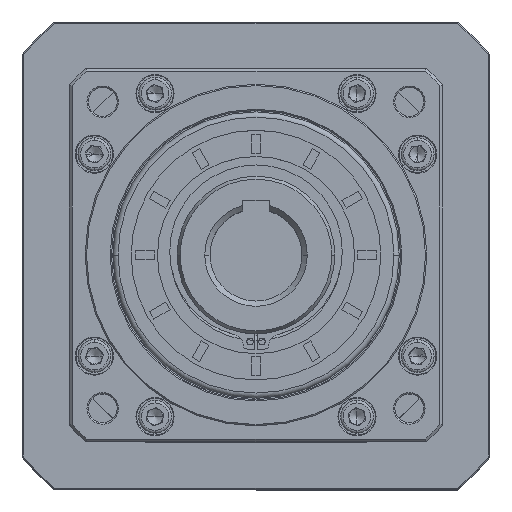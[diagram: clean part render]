
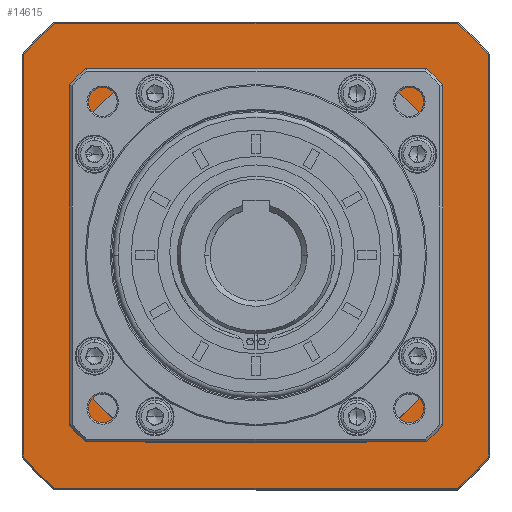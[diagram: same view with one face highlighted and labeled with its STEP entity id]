
A CAD part, top view. The second image highlights one B-rep face of the part: STEP entity #14615.
In plain terms, the highlighted planar face has unit normal (0, 0, 1).
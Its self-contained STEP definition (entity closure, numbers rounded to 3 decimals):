
#91 = CARTESIAN_POINT ( 'NONE',  ( 262.937, -248.278, 165.15 ) ) ;
#898 = AXIS2_PLACEMENT_3D ( 'NONE', #95079, #66835, #40701 ) ;
#3240 = CARTESIAN_POINT ( 'NONE',  ( 115.907, -117.763, 165.15 ) ) ;
#3465 = EDGE_CURVE ( 'NONE', #37110, #58578, #32002, .T. ) ;
#3984 = CIRCLE ( 'NONE', #9793, 117. ) ;
#4515 = EDGE_CURVE ( 'NONE', #74412, #87066, #66161, .T. ) ;
#4616 = EDGE_LOOP ( 'NONE', ( #67858, #55252, #12311, #27692, #33741, #61746, #5393, #14943 ) ) ;
#4711 = EDGE_CURVE ( 'NONE', #58578, #74412, #12692, .T. ) ;
#5393 = ORIENTED_EDGE ( 'NONE', *, *, #3465, .T. ) ;
#6819 = DIRECTION ( 'NONE',  ( -1., 0., 0. ) ) ;
#6979 = CARTESIAN_POINT ( 'NONE',  ( 186.407, -159.778, 165.15 ) ) ;
#9467 = CIRCLE ( 'NONE', #898, 117. ) ;
#9640 = EDGE_CURVE ( 'NONE', #52036, #95091, #34363, .T. ) ;
#9793 = AXIS2_PLACEMENT_3D ( 'NONE', #6979, #82008, #62255 ) ;
#10602 = DIRECTION ( 'NONE',  ( 0., -1., 0. ) ) ;
#11187 = VECTOR ( 'NONE', #6819, 1000. ) ;
#11721 = EDGE_CURVE ( 'NONE', #53651, #71092, #79537, .T. ) ;
#12311 = ORIENTED_EDGE ( 'NONE', *, *, #113771, .T. ) ;
#12488 = CARTESIAN_POINT ( 'NONE',  ( 256.907, -201.656, 165.15 ) ) ;
#12692 = LINE ( 'NONE', #3240, #47416 ) ;
#13835 = DIRECTION ( 'NONE',  ( 0., 0., -1. ) ) ;
#14615 = ADVANCED_FACE ( 'NONE', ( #59566, #48071 ), #72311, .F. ) ;
#14943 = ORIENTED_EDGE ( 'NONE', *, *, #4711, .T. ) ;
#15708 = CARTESIAN_POINT ( 'NONE',  ( 186.407, -71.278, 165.15 ) ) ;
#16229 = CARTESIAN_POINT ( 'NONE',  ( 144.53, -89.278, 165.15 ) ) ;
#16851 = CARTESIAN_POINT ( 'NONE',  ( 228.422, -89.278, 165.15 ) ) ;
#17565 = VERTEX_POINT ( 'NONE', #81045 ) ;
#19046 = CIRCLE ( 'NONE', #55985, 117. ) ;
#19169 = EDGE_LOOP ( 'NONE', ( #65465, #20775, #90164, #104196, #66467, #32832, #24504, #29638 ) ) ;
#19943 = CARTESIAN_POINT ( 'NONE',  ( 115.907, -117.9, 165.15 ) ) ;
#20264 = VECTOR ( 'NONE', #70873, 1000. ) ;
#20775 = ORIENTED_EDGE ( 'NONE', *, *, #115373, .T. ) ;
#20845 = CARTESIAN_POINT ( 'NONE',  ( 186.407, -159.778, 165.15 ) ) ;
#21655 = DIRECTION ( 'NONE',  ( -1., 0., 0. ) ) ;
#23106 = CARTESIAN_POINT ( 'NONE',  ( 228.285, -230.278, 165.15 ) ) ;
#23598 = EDGE_CURVE ( 'NONE', #104219, #96436, #93585, .T. ) ;
#23708 = CARTESIAN_POINT ( 'NONE',  ( 186.407, -248.278, 165.15 ) ) ;
#24128 = DIRECTION ( 'NONE',  ( -1., 0., 0. ) ) ;
#24504 = ORIENTED_EDGE ( 'NONE', *, *, #9640, .T. ) ;
#25999 = EDGE_CURVE ( 'NONE', #96436, #52036, #19046, .T. ) ;
#26904 = CARTESIAN_POINT ( 'NONE',  ( 274.907, -236.307, 165.15 ) ) ;
#27692 = ORIENTED_EDGE ( 'NONE', *, *, #11721, .T. ) ;
#27787 = EDGE_CURVE ( 'NONE', #71092, #76981, #76022, .T. ) ;
#28505 = CARTESIAN_POINT ( 'NONE',  ( 262.937, -71.278, 165.15 ) ) ;
#29024 = AXIS2_PLACEMENT_3D ( 'NONE', #49462, #13835, #78432 ) ;
#29638 = ORIENTED_EDGE ( 'NONE', *, *, #81963, .T. ) ;
#32002 = CIRCLE ( 'NONE', #110656, 82. ) ;
#32832 = ORIENTED_EDGE ( 'NONE', *, *, #25999, .T. ) ;
#33741 = ORIENTED_EDGE ( 'NONE', *, *, #27787, .T. ) ;
#34363 = LINE ( 'NONE', #15708, #11187 ) ;
#34481 = AXIS2_PLACEMENT_3D ( 'NONE', #102504, #65761, #75132 ) ;
#37110 = VERTEX_POINT ( 'NONE', #92746 ) ;
#37201 = VERTEX_POINT ( 'NONE', #85473 ) ;
#38153 = CIRCLE ( 'NONE', #29024, 82. ) ;
#40701 = DIRECTION ( 'NONE',  ( -1., 0., 0. ) ) ;
#44613 = VECTOR ( 'NONE', #111106, 1000. ) ;
#46146 = DIRECTION ( 'NONE',  ( -1., 0., 0. ) ) ;
#47416 = VECTOR ( 'NONE', #75521, 1000. ) ;
#47423 = CARTESIAN_POINT ( 'NONE',  ( 97.907, -159.778, 165.15 ) ) ;
#48071 = FACE_BOUND ( 'NONE', #4616, .T. ) ;
#48354 = CARTESIAN_POINT ( 'NONE',  ( 186.407, -159.778, 165.15 ) ) ;
#48709 = CARTESIAN_POINT ( 'NONE',  ( 186.407, -159.778, 165.15 ) ) ;
#49462 = CARTESIAN_POINT ( 'NONE',  ( 186.407, -159.778, 165.15 ) ) ;
#49563 = CARTESIAN_POINT ( 'NONE',  ( 256.907, -117.9, 165.15 ) ) ;
#51197 = DIRECTION ( 'NONE',  ( 0., 0., 1. ) ) ;
#52036 = VERTEX_POINT ( 'NONE', #28505 ) ;
#52498 = AXIS2_PLACEMENT_3D ( 'NONE', #20845, #105087, #85773 ) ;
#53651 = VERTEX_POINT ( 'NONE', #49563 ) ;
#54468 = LINE ( 'NONE', #23708, #55865 ) ;
#55252 = ORIENTED_EDGE ( 'NONE', *, *, #92173, .T. ) ;
#55865 = VECTOR ( 'NONE', #78187, 1000. ) ;
#55985 = AXIS2_PLACEMENT_3D ( 'NONE', #79382, #51197, #24128 ) ;
#56298 = CARTESIAN_POINT ( 'NONE',  ( 274.907, -159.778, 165.15 ) ) ;
#57239 = CARTESIAN_POINT ( 'NONE',  ( 228.285, -89.278, 165.15 ) ) ;
#58282 = AXIS2_PLACEMENT_3D ( 'NONE', #48709, #113095, #21655 ) ;
#58578 = VERTEX_POINT ( 'NONE', #74223 ) ;
#59566 = FACE_OUTER_BOUND ( 'NONE', #19169, .T. ) ;
#60203 = CIRCLE ( 'NONE', #58282, 117. ) ;
#61396 = AXIS2_PLACEMENT_3D ( 'NONE', #118949, #91244, #46146 ) ;
#61746 = ORIENTED_EDGE ( 'NONE', *, *, #111722, .T. ) ;
#62255 = DIRECTION ( 'NONE',  ( -1., 0., 0. ) ) ;
#65465 = ORIENTED_EDGE ( 'NONE', *, *, #118898, .T. ) ;
#65761 = DIRECTION ( 'NONE',  ( 0., 0., -1. ) ) ;
#66161 = CIRCLE ( 'NONE', #34481, 82. ) ;
#66467 = ORIENTED_EDGE ( 'NONE', *, *, #23598, .T. ) ;
#66835 = DIRECTION ( 'NONE',  ( 0., 0., 1. ) ) ;
#67858 = ORIENTED_EDGE ( 'NONE', *, *, #4515, .T. ) ;
#70873 = DIRECTION ( 'NONE',  ( -1., 0., 0. ) ) ;
#71092 = VERTEX_POINT ( 'NONE', #12488 ) ;
#72132 = DIRECTION ( 'NONE',  ( 1., 0., 0. ) ) ;
#72311 = PLANE ( 'NONE',  #61396 ) ;
#74223 = CARTESIAN_POINT ( 'NONE',  ( 115.907, -201.656, 165.15 ) ) ;
#74412 = VERTEX_POINT ( 'NONE', #19943 ) ;
#74832 = VECTOR ( 'NONE', #72132, 1000. ) ;
#75132 = DIRECTION ( 'NONE',  ( 1., 0., 0. ) ) ;
#75521 = DIRECTION ( 'NONE',  ( 0., 1., 0. ) ) ;
#75718 = VERTEX_POINT ( 'NONE', #57239 ) ;
#76022 = CIRCLE ( 'NONE', #52498, 82. ) ;
#76981 = VERTEX_POINT ( 'NONE', #23106 ) ;
#78079 = CARTESIAN_POINT ( 'NONE',  ( 109.878, -71.278, 165.15 ) ) ;
#78187 = DIRECTION ( 'NONE',  ( 1., 0., 0. ) ) ;
#78432 = DIRECTION ( 'NONE',  ( 1., 0., 0. ) ) ;
#78946 = VERTEX_POINT ( 'NONE', #91 ) ;
#79382 = CARTESIAN_POINT ( 'NONE',  ( 186.407, -159.778, 165.15 ) ) ;
#79537 = LINE ( 'NONE', #87131, #89594 ) ;
#80275 = VECTOR ( 'NONE', #10602, 1000. ) ;
#81045 = CARTESIAN_POINT ( 'NONE',  ( 109.878, -248.278, 165.15 ) ) ;
#81963 = EDGE_CURVE ( 'NONE', #95091, #37201, #9467, .T. ) ;
#82008 = DIRECTION ( 'NONE',  ( 0., 0., 1. ) ) ;
#82278 = VERTEX_POINT ( 'NONE', #99055 ) ;
#83739 = EDGE_CURVE ( 'NONE', #17565, #78946, #54468, .T. ) ;
#83815 = DIRECTION ( 'NONE',  ( 1., 0., 0. ) ) ;
#85473 = CARTESIAN_POINT ( 'NONE',  ( 97.907, -83.248, 165.15 ) ) ;
#85773 = DIRECTION ( 'NONE',  ( 1., 0., 0. ) ) ;
#87066 = VERTEX_POINT ( 'NONE', #16229 ) ;
#87131 = CARTESIAN_POINT ( 'NONE',  ( 256.907, -201.793, 165.15 ) ) ;
#88988 = CARTESIAN_POINT ( 'NONE',  ( 144.392, -230.278, 165.15 ) ) ;
#89594 = VECTOR ( 'NONE', #104885, 1000. ) ;
#90164 = ORIENTED_EDGE ( 'NONE', *, *, #83739, .T. ) ;
#91244 = DIRECTION ( 'NONE',  ( 0., 0., -1. ) ) ;
#92173 = EDGE_CURVE ( 'NONE', #87066, #75718, #97829, .T. ) ;
#92386 = EDGE_CURVE ( 'NONE', #78946, #104219, #60203, .T. ) ;
#92746 = CARTESIAN_POINT ( 'NONE',  ( 144.53, -230.278, 165.15 ) ) ;
#93585 = LINE ( 'NONE', #56298, #44613 ) ;
#95079 = CARTESIAN_POINT ( 'NONE',  ( 186.407, -159.778, 165.15 ) ) ;
#95091 = VERTEX_POINT ( 'NONE', #78079 ) ;
#96436 = VERTEX_POINT ( 'NONE', #99444 ) ;
#97829 = LINE ( 'NONE', #16851, #74832 ) ;
#99055 = CARTESIAN_POINT ( 'NONE',  ( 97.907, -236.307, 165.15 ) ) ;
#99444 = CARTESIAN_POINT ( 'NONE',  ( 274.907, -83.248, 165.15 ) ) ;
#102327 = DIRECTION ( 'NONE',  ( 0., 0., -1. ) ) ;
#102504 = CARTESIAN_POINT ( 'NONE',  ( 186.407, -159.778, 165.15 ) ) ;
#104196 = ORIENTED_EDGE ( 'NONE', *, *, #92386, .T. ) ;
#104219 = VERTEX_POINT ( 'NONE', #26904 ) ;
#104885 = DIRECTION ( 'NONE',  ( 0., -1., 0. ) ) ;
#105087 = DIRECTION ( 'NONE',  ( 0., 0., -1. ) ) ;
#107614 = LINE ( 'NONE', #47423, #80275 ) ;
#110656 = AXIS2_PLACEMENT_3D ( 'NONE', #48354, #102327, #83815 ) ;
#111106 = DIRECTION ( 'NONE',  ( 0., 1., 0. ) ) ;
#111722 = EDGE_CURVE ( 'NONE', #76981, #37110, #115401, .T. ) ;
#113095 = DIRECTION ( 'NONE',  ( 0., 0., 1. ) ) ;
#113771 = EDGE_CURVE ( 'NONE', #75718, #53651, #38153, .T. ) ;
#115373 = EDGE_CURVE ( 'NONE', #82278, #17565, #3984, .T. ) ;
#115401 = LINE ( 'NONE', #88988, #20264 ) ;
#118898 = EDGE_CURVE ( 'NONE', #37201, #82278, #107614, .T. ) ;
#118949 = CARTESIAN_POINT ( 'NONE',  ( 186.407, -159.778, 165.15 ) ) ;
